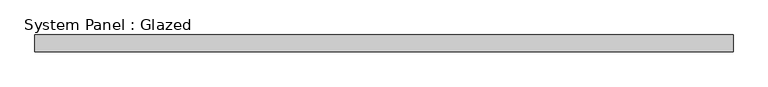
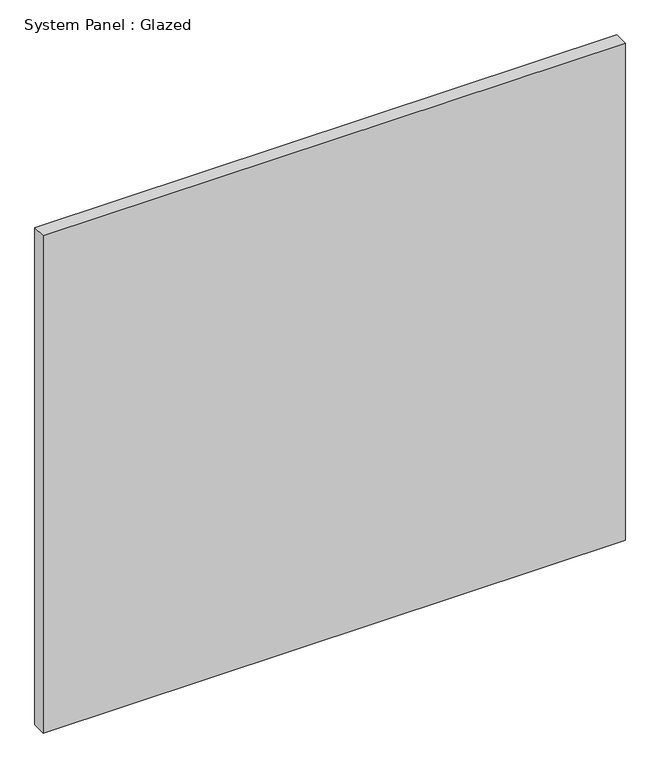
"""IFC4 building model written with IfcOpenShell, lengths in millimetres: plate geometry, System Panel : Glazed."""

from ifc_helpers import new_model, si_unit, origin, origin_with_axes, place, context, project, spatial, polyline, outline, extrude, source, transform, mapped, element, save


def system_panel_glazed_300e6ed4(model_context):
    return source(origin(), model_context, "Body", "SweptSolid", [
        extrude(outline(polyline([(512.5000001, 24.5), (-512.5000001, 24.5), (-512.5000001, 49.5), (512.5000001, 49.5), (512.5000001, 24.5)])), origin_with_axes(), (0.0, 0.0, 1.0), 925.0),
    ])


if __name__ == "__main__":
    model = new_model("IFC4")
    model_context = context("Model", 3, world=origin())
    ifc_project = project(units=[si_unit("LENGTHUNIT", "METRE", prefix="MILLI")], contexts=[model_context])
    site = spatial("IfcSite", under=ifc_project)
    building = spatial("IfcBuilding", under=site)
    placement = place(None, origin())
    system_panel_glazed_shape = system_panel_glazed_300e6ed4(model_context)
    element("IfcPlate", 1, ObjectType="System Panel : Glazed", at=placement, inside=building, context=model_context, shape_type="MappedRepresentation", body=[
        mapped(system_panel_glazed_shape, transform((0.0, 0.0, 0.0), x_axis=(1.0, 0.0, 0.0), y_axis=(0.0, 1.0, 0.0), z_axis=(0.0, 0.0, 1.0))),
    ])
    save(model, "model.ifc")
